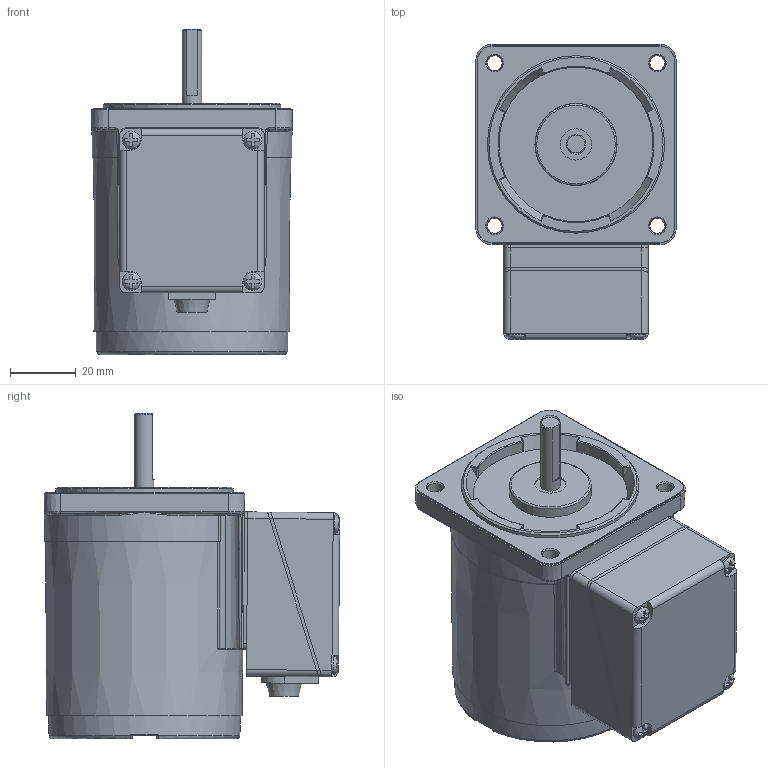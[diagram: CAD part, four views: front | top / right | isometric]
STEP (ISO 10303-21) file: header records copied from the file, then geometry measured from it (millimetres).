
FILE_DESCRIPTION (( 'STEP AP214' ), '1' );
FILE_NAME ('6IDD¤±-6-T.STEP', '2025-01-13T01:35:30', ( '' ), ( '' ), 'SwSTEP 2.0', 'SolidWorks 2024', '' );
FILE_SCHEMA (( 'AUTOMOTIVE_DESIGN' ));
Length unit declared in the file: millimetre
Products named in the file (3): 6IDDㅁ-6; 6IDDㅁ-6-T; TB6070
Assembly tree (2 placements, depth 2):
  6IDDㅁ-6-T
    6IDDㅁ-6
    TB6070
Bounding box: 61 x 89.93 x 99 mm (x, y, z)
Volume: 280755.8 mm3; surface area: 48000.5 mm2
Topology: 7 solids, 7 shells, 468 faces, 1073 edges, 635 vertices
Faces by surface type: plane 168, cylinder 98, bspline 78, torus 56, cone 46, sphere 22
Full cylindrical faces by diameter (mm): 4.5 x4, 5.5 x4, 6 x2, 7 x1, 9.5 x1, 10 x1, 54 x1
Entity records: 14062 total; most frequent: CARTESIAN_POINT 4398, ORIENTED_EDGE 1936, DIRECTION 1911, EDGE_CURVE 968, AXIS2_PLACEMENT_3D 777, VERTEX_POINT 614, EDGE_LOOP 576, FACE_OUTER_BOUND 506
